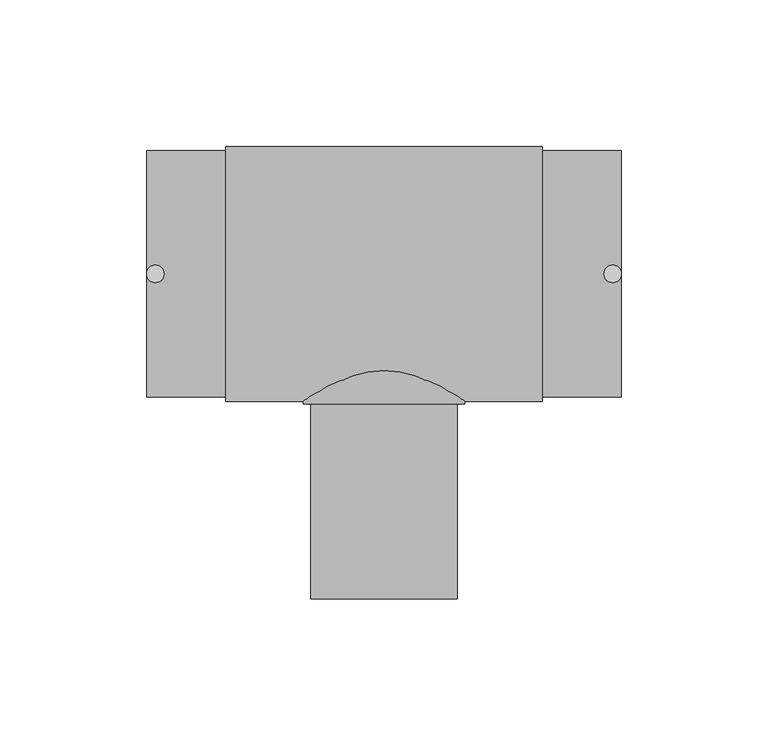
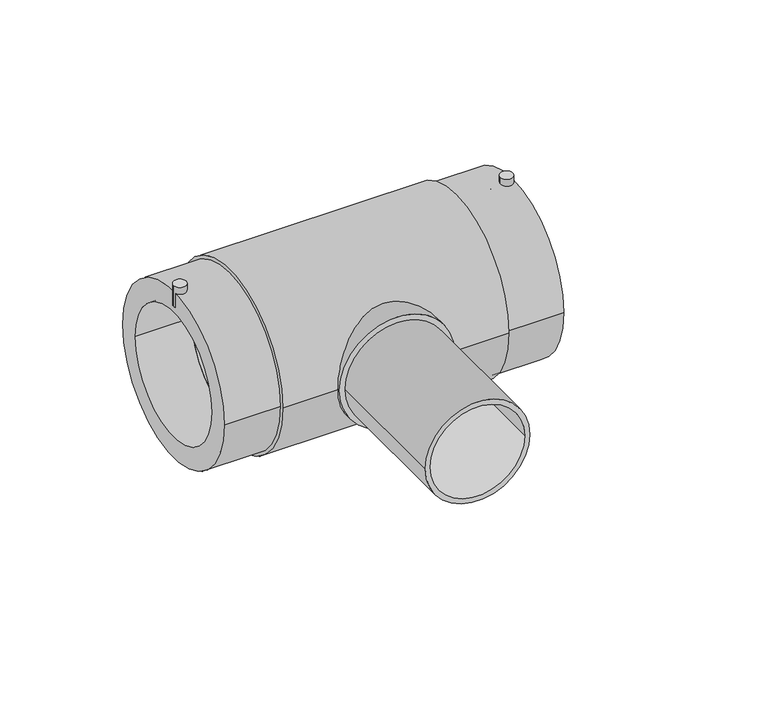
"""IFC4 building model written with IfcOpenShell, lengths in millimetres: pipe fitting geometry, EGB_VASEN_ PPR_Te electrosoldable WXRD300_Te reducida electrosoldable WXRD310 : Te electrosoldable."""

from ifc_helpers import new_model, si_unit, point, frame, frame_2d, origin, origin_2d, place, context, project, spatial, circle_curve, trimmed, segment, composite_curve, outline, extrude, source, transform, mapped, element, save


def pipe_fitting_3ed57d5d(model_context):
    return source(origin(), model_context, "Body", "SweptSolid", [
        extrude(outline(composite_curve([segment(trimmed(circle_curve(frame_2d((-78.0, 0.0)), 3.0), [point((-81.0, 0.0))], [point((-75.0, 0.0))], False, "CARTESIAN"), True, "CONTINUOUS"), segment(trimmed(circle_curve(frame_2d((-78.0, 0.0)), 3.0), [point((-75.0, 0.0))], [point((-81.0, 0.0))], False, "CARTESIAN"), True, "CONTINUOUS")], self_intersect=False)), frame((0.0, 0.0, 34.5), z_axis=(0.0, 0.0, 1.0), x_axis=(1.0, 0.0, 0.0)), (0.0, 0.0, 1.0), 10.5),
        extrude(outline(composite_curve([segment(trimmed(circle_curve(frame_2d((78.0, 0.0)), 3.0), [point((75.0, 0.0))], [point((81.0, 0.0))], False, "CARTESIAN"), True, "CONTINUOUS"), segment(trimmed(circle_curve(frame_2d((78.0, 0.0)), 3.0), [point((81.0, 0.0))], [point((75.0, 0.0))], False, "CARTESIAN"), True, "CONTINUOUS")], self_intersect=False)), frame((0.0, 0.0, 34.5), z_axis=(0.0, 0.0, 1.0), x_axis=(1.0, 0.0, 0.0)), (0.0, 0.0, 1.0), 10.5),
        extrude(outline(composite_curve([segment(trimmed(circle_curve(origin_2d(), 27.5), [point((0.0, 27.5))], [point((0.0, -27.5))], False, "CARTESIAN"), True, "CONTINUOUS"), segment(trimmed(circle_curve(origin_2d(), 27.5), [point((0.0, -27.5))], [point((0.0, 27.5))], False, "CARTESIAN"), True, "CONTINUOUS")], self_intersect=False)), frame((0.0, -44.4, 0.0), z_axis=(0.0, 1.0, 0.0), x_axis=(0.0, 0.0, 1.0)), (0.0, 0.0, 1.0), 44.4),
        extrude(outline(composite_curve([segment(trimmed(circle_curve(origin_2d(), 25.0), [point((0.0, -25.0))], [point((0.0, 25.0))], False, "CARTESIAN"), True, "CONTINUOUS"), segment(trimmed(circle_curve(origin_2d(), 25.0), [point((0.0, 25.0))], [point((0.0, -25.0))], False, "CARTESIAN"), True, "CONTINUOUS")], self_intersect=False), holes=[composite_curve([segment(trimmed(circle_curve(origin_2d(), 22.5), [point((0.0, -22.5))], [point((0.0, 22.5))], True, "CARTESIAN"), True, "CONTINUOUS"), segment(trimmed(circle_curve(origin_2d(), 22.5), [point((0.0, 22.5))], [point((0.0, -22.5))], True, "CARTESIAN"), True, "CONTINUOUS")], self_intersect=False)]), frame((0.0, -111.0, 0.0), z_axis=(0.0, 1.0, 0.0), x_axis=(0.0, 0.0, 1.0)), (0.0, 0.0, 1.0), 66.6),
        extrude(outline(composite_curve([segment(trimmed(circle_curve(origin_2d(), 43.5), [point((-43.5, 0.0))], [point((43.5, 0.0))], False, "CARTESIAN"), True, "CONTINUOUS"), segment(trimmed(circle_curve(origin_2d(), 43.5), [point((43.5, 0.0))], [point((-43.5, 0.0))], False, "CARTESIAN"), True, "CONTINUOUS")], self_intersect=False), holes=[composite_curve([segment(trimmed(circle_curve(origin_2d(), 31.5), [point((-31.5, 0.0))], [point((31.5, 0.0))], True, "CARTESIAN"), True, "CONTINUOUS"), segment(trimmed(circle_curve(origin_2d(), 31.5), [point((31.5, 0.0))], [point((-31.5, 0.0))], True, "CARTESIAN"), True, "CONTINUOUS")], self_intersect=False)]), frame((-54.0, 0.0, 0.0), z_axis=(1.0, 0.0, 0.0), x_axis=(0.0, 1.0, 0.0)), (0.0, 0.0, 1.0), 108.0),
        extrude(outline(composite_curve([segment(trimmed(circle_curve(origin_2d(), 42.0), [point((-42.0, 0.0))], [point((42.0, 0.0))], False, "CARTESIAN"), True, "CONTINUOUS"), segment(trimmed(circle_curve(origin_2d(), 42.0), [point((42.0, 0.0))], [point((-42.0, 0.0))], False, "CARTESIAN"), True, "CONTINUOUS")], self_intersect=False), holes=[composite_curve([segment(trimmed(circle_curve(origin_2d(), 31.5), [point((-31.5, 0.0))], [point((31.5, 0.0))], True, "CARTESIAN"), True, "CONTINUOUS"), segment(trimmed(circle_curve(origin_2d(), 31.5), [point((31.5, 0.0))], [point((-31.5, 0.0))], True, "CARTESIAN"), True, "CONTINUOUS")], self_intersect=False)]), frame((-81.0, 0.0, 0.0), z_axis=(1.0, 0.0, 0.0), x_axis=(0.0, 1.0, 0.0)), (0.0, 0.0, 1.0), 162.0),
    ])


if __name__ == "__main__":
    model = new_model("IFC4")
    model_context = context("Model", 3, world=origin())
    ifc_project = project(units=[si_unit("LENGTHUNIT", "METRE", prefix="MILLI")], contexts=[model_context])
    site = spatial("IfcSite", under=ifc_project)
    building = spatial("IfcBuilding", under=site)
    placement = place(None, origin())
    pipe_fitting_shape = pipe_fitting_3ed57d5d(model_context)
    element("IfcPipeFitting", 1, ObjectType="EGB_VASEN_ PPR_Te electrosoldable WXRD300_Te reducida electrosoldable WXRD310 : Te electrosoldable", at=placement, inside=building, context=model_context, shape_type="MappedRepresentation", body=[
        mapped(pipe_fitting_shape, transform((0.0, 0.0, 0.0), x_axis=(1.0, 0.0, 0.0), y_axis=(0.0, 1.0, 0.0), z_axis=(0.0, 0.0, 1.0))),
    ])
    save(model, "model.ifc")
